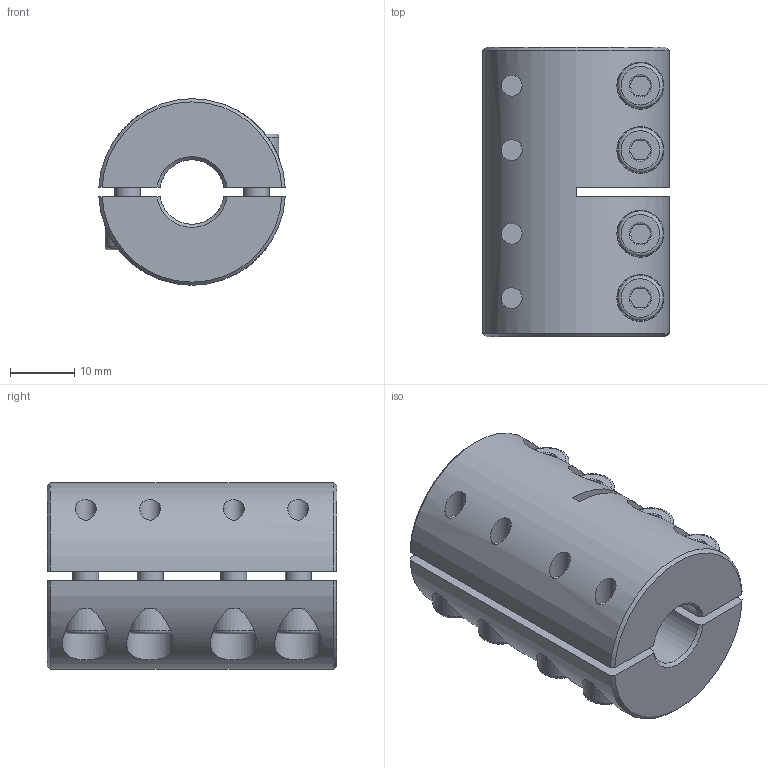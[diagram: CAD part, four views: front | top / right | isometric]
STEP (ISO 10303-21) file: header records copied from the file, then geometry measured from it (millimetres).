
FILE_DESCRIPTION( ( 'Unknown' ), '1' );
FILE_NAME( 'K:/Konstruktion/Fertigungszeichnungen/Schalenkupplung/KBST-G/KBST-G-10.stp', 'Unknown', ( 'Unknown' ), ( 'Unknown' ), 'PSStep 16.0.42', 'Unknown', ' ' );
FILE_SCHEMA( ( 'AUTOMOTIVE_DESIGN { 1 0 10303 214 1 1 1 1 }' ) );
Length unit declared in the file: millimetre
Products named in the file (4): Assem1; ISO EN DIN 4762 M4x12; KBST-G-10
Assembly tree (10 placements, depth 2):
  Assem1
    ISO EN DIN 4762 M4x12  x8
    KBST-G-10
    KBST-G-10
Bounding box: 28.96 x 45 x 29 mm (x, y, z)
Volume: 23898.1 mm3; surface area: 12701.7 mm2
Topology: 10 solids, 10 shells, 260 faces, 500 edges, 300 vertices
Faces by surface type: plane 120, cone 64, cylinder 60, torus 16
Full cylindrical faces by diameter (mm): 3.242 x8, 3.5 x8, 4 x16, 4.3 x8, 7 x8
Entity records: 4026 total; most frequent: CARTESIAN_POINT 1392, DIRECTION 390, ORIENTED_EDGE 326, AXIS2_PLACEMENT_3D 169, EDGE_CURVE 163, EDGE_LOOP 152, VERTEX_POINT 119, FACE_OUTER_BOUND 107
